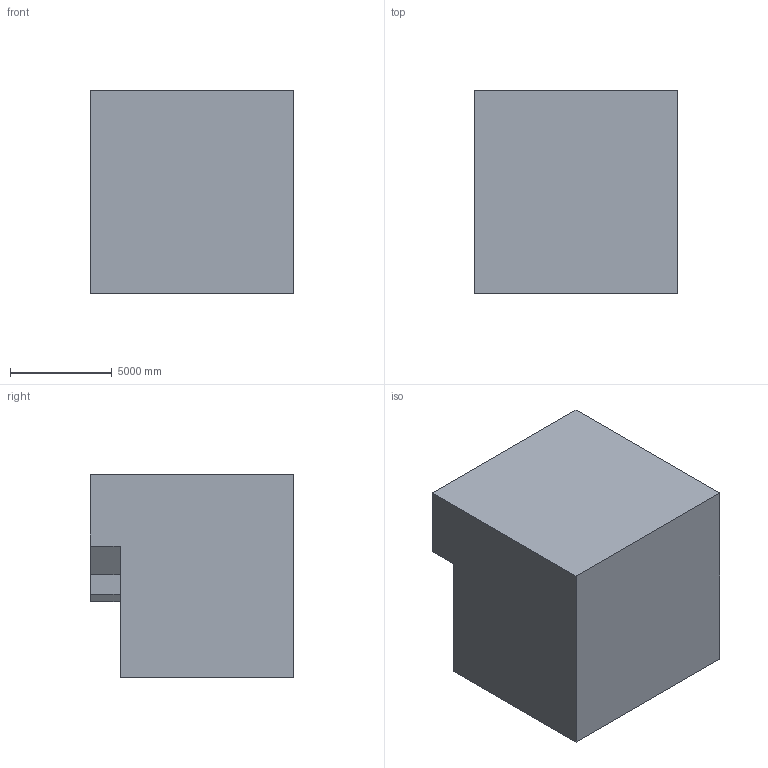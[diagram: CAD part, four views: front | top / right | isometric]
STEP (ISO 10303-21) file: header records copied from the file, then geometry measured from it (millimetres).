
FILE_DESCRIPTION (( 'STEP AP203' ), '1' );
FILE_NAME ('4.STEP', '2022-08-31T11:07:50', ( 'user' ), ( '' ), 'SwSTEP 2.0', 'SolidWorks 2021', '' );
FILE_SCHEMA (( 'CONFIG_CONTROL_DESIGN' ));
Length unit declared in the file: centimetre
Products named in the file (1): 4
Bounding box: 10000 x 10000 x 10000 mm (x, y, z)
Volume: 889990501382.7 mm3; surface area: 604862670.8 mm2
Topology: 1 solids, 1 shells, 14 faces, 36 edges, 24 vertices
Faces by surface type: plane 14
Entity records: 497 total; most frequent: CARTESIAN_POINT 75, ORIENTED_EDGE 72, DIRECTION 66, LINE 36, VECTOR 36, EDGE_CURVE 36, VERTEX_POINT 24, AXIS2_PLACEMENT_3D 15
